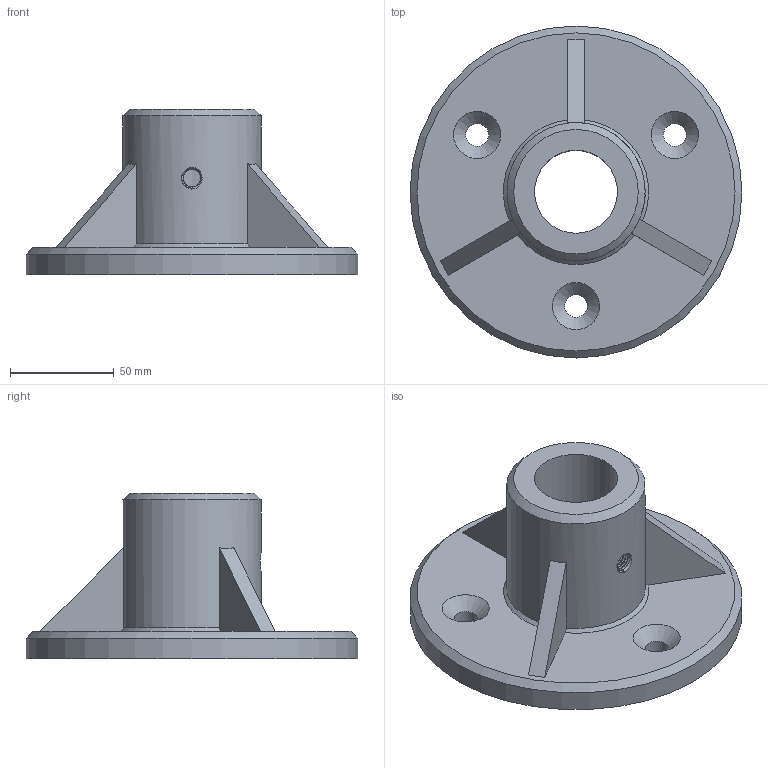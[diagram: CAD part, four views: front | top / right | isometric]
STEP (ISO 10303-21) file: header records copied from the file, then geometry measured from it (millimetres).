
FILE_DESCRIPTION(/* description */ (''),/* implementation_level */ '2;1');
FILE_NAME(/* name */ '40MM_M10.stp',/* time_stamp */ '2024-11-18T16:29:45+01:00',/* author */ (''),/* organization */ (''),/* preprocessor_version */ 'ST-DEVELOPER v20',/* originating_system */ 'SIEMENS PLM Software NX2406.4001',/* authorisation */ '');
FILE_SCHEMA (('AUTOMOTIVE_DESIGN { 1 0 10303 214 3 1 1 1 }'));
Length unit declared in the file: millimetre
Products named in the file (1): 40MM_M10
Bounding box: 160 x 160 x 80 mm (x, y, z)
Volume: 408792.5 mm3; surface area: 72060.9 mm2
Topology: 1 solids, 1 shells, 43 faces, 113 edges, 73 vertices
Faces by surface type: cylinder 14, plane 14, cone 13, bspline 2
Full cylindrical faces by diameter (mm): 8.5 x6, 11 x3, 40 x1, 66.667 x1, 160 x1
Entity records: 2477 total; most frequent: CARTESIAN_POINT 1646, DIRECTION 159, ORIENTED_EDGE 146, EDGE_CURVE 73, AXIS2_PLACEMENT_3D 67, EDGE_LOOP 65, VERTEX_POINT 56, FACE_BOUND 48
